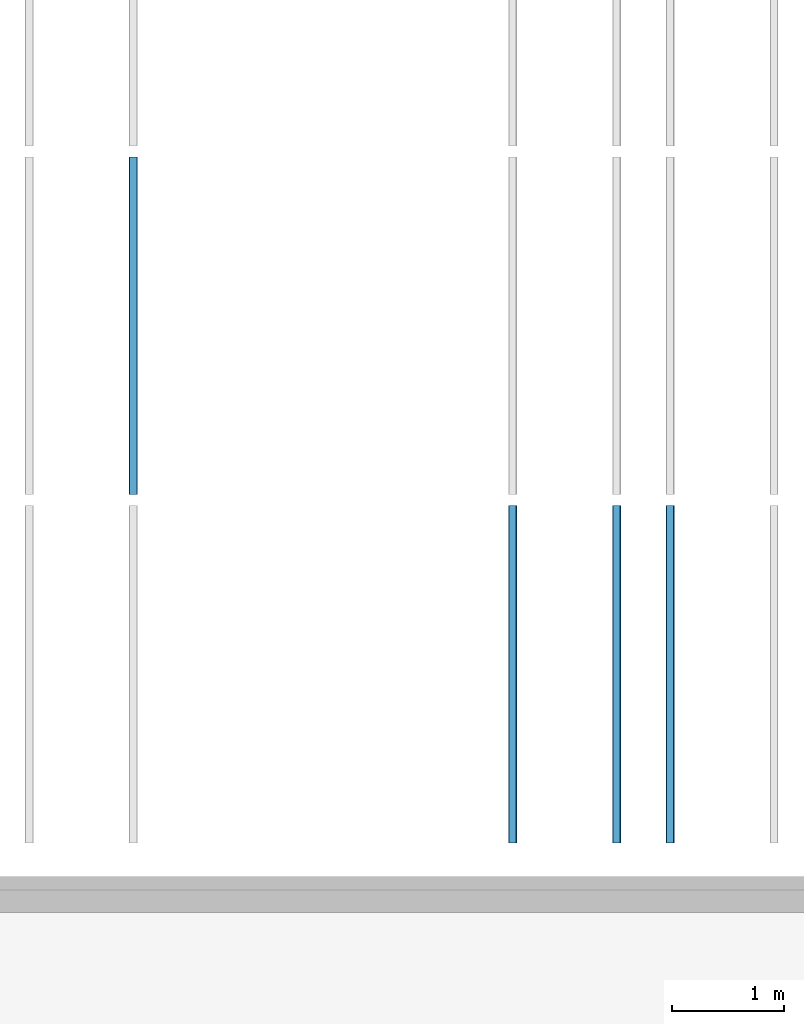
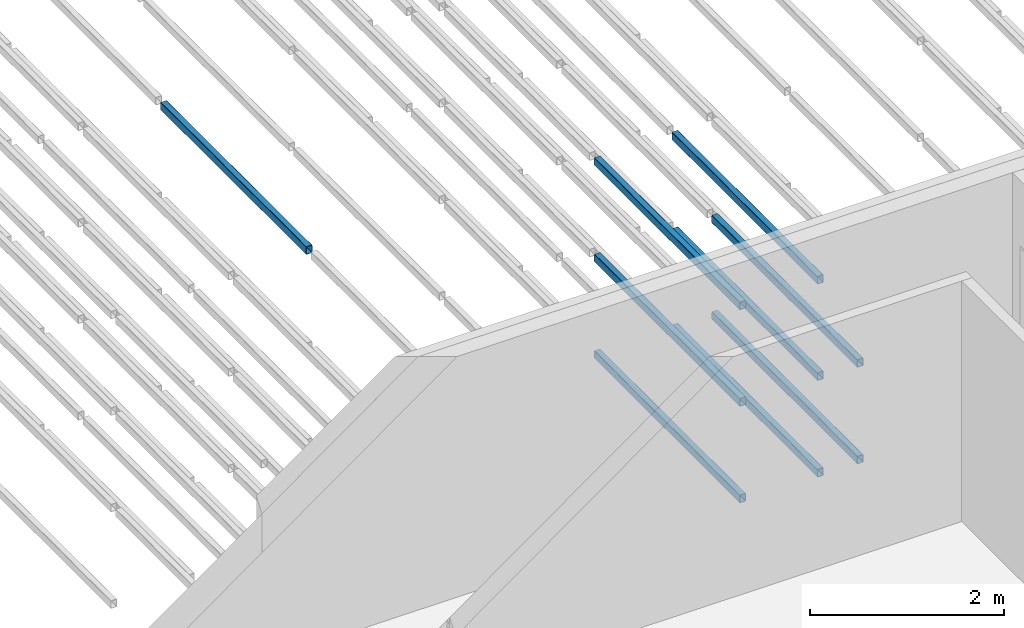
# One storey, part 27 of 290: 9 beams.
"""IFC2X3 building model written with IfcOpenShell, lengths in metres."""

from ifc_helpers import new_model, entity, si_unit, converted_unit, derived_unit, direction, frame, frame_2d, origin, place, context, subcontext, project, spatial, polyline, circle_curve, parameter, trimmed, segment, composite_curve, outline, extrude, material, type_object, element, save


model = new_model("IFC2X3")

# Units and contexts
model_context = context("Model", 3, precision=1e-05, world=origin(), true_north=direction((6.12303176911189e-17, 1.0)))
body_context = subcontext(model_context, "Body", "Model", "MODEL_VIEW")
ifc_project = project(units=[si_unit("LENGTHUNIT", "METRE"), si_unit("AREAUNIT", "SQUARE_METRE"), si_unit("VOLUMEUNIT", "CUBIC_METRE"), converted_unit("PLANEANGLEUNIT", "DEGREE", entity("IfcRatioMeasure", 0.0174532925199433), si_unit("PLANEANGLEUNIT", "RADIAN"), dimensions=[0, 0, 0, 0, 0, 0, 0]), si_unit("MASSUNIT", "GRAM", prefix="KILO"), derived_unit("MASSDENSITYUNIT", [(si_unit("MASSUNIT", "GRAM", prefix="KILO"), 1), (si_unit("LENGTHUNIT", "METRE"), -3)]), derived_unit("MOMENTOFINERTIAUNIT", [(si_unit("LENGTHUNIT", "METRE"), 4)]), si_unit("TIMEUNIT", "SECOND"), si_unit("FREQUENCYUNIT", "HERTZ"), si_unit("THERMODYNAMICTEMPERATUREUNIT", "DEGREE_CELSIUS"), derived_unit("THERMALTRANSMITTANCEUNIT", [(si_unit("MASSUNIT", "GRAM", prefix="KILO"), 1), (si_unit("THERMODYNAMICTEMPERATUREUNIT", "KELVIN"), -1), (si_unit("TIMEUNIT", "SECOND"), -3)]), derived_unit("VOLUMETRICFLOWRATEUNIT", [(si_unit("LENGTHUNIT", "METRE"), 3), (si_unit("TIMEUNIT", "SECOND"), -1)]), si_unit("ELECTRICCURRENTUNIT", "AMPERE"), si_unit("ELECTRICVOLTAGEUNIT", "VOLT"), si_unit("POWERUNIT", "WATT"), si_unit("FORCEUNIT", "NEWTON", prefix="KILO"), si_unit("ILLUMINANCEUNIT", "LUX"), si_unit("LUMINOUSFLUXUNIT", "LUMEN"), si_unit("LUMINOUSINTENSITYUNIT", "CANDELA"), derived_unit("USERDEFINED", [(si_unit("MASSUNIT", "GRAM", prefix="KILO"), -1), (si_unit("LENGTHUNIT", "METRE"), -2), (si_unit("TIMEUNIT", "SECOND"), 3), (si_unit("LUMINOUSFLUXUNIT", "LUMEN"), 1)]), derived_unit("LINEARVELOCITYUNIT", [(si_unit("LENGTHUNIT", "METRE"), 1), (si_unit("TIMEUNIT", "SECOND"), -1)]), si_unit("PRESSUREUNIT", "PASCAL"), derived_unit("USERDEFINED", [(si_unit("LENGTHUNIT", "METRE"), -2), (si_unit("MASSUNIT", "GRAM", prefix="KILO"), 1), (si_unit("TIMEUNIT", "SECOND"), -2)]), derived_unit("LINEARFORCEUNIT", [(si_unit("MASSUNIT", "GRAM", prefix="KILO"), 1), (si_unit("LENGTHUNIT", "METRE"), 1), (si_unit("TIMEUNIT", "SECOND"), -2), (si_unit("LENGTHUNIT", "METRE"), -1)]), derived_unit("PLANARFORCEUNIT", [(si_unit("MASSUNIT", "GRAM", prefix="KILO"), 1), (si_unit("LENGTHUNIT", "METRE"), 1), (si_unit("TIMEUNIT", "SECOND"), -2), (si_unit("LENGTHUNIT", "METRE"), -2)])], contexts=[model_context])

# Site, building, storey
site_placement = place(None, origin())
site = spatial("IfcSite", under=ifc_project, at=site_placement, Name="Default", CompositionType="ELEMENT")
building_placement = place(site_placement, origin())
building = spatial("IfcBuilding", under=site, at=building_placement, CompositionType="ELEMENT")
storey_placement = place(building_placement, frame((0.0, 0.0, 4.0)))
storey = spatial("IfcBuildingStorey", under=building, at=storey_placement, Name="01_OG", CompositionType="ELEMENT", Elevation=4.0)

# Beams
ifc_material = material(Name="Metall - Baustahl S235 blau")
beam_type = type_object("IfcBeamType", Name="RHS Träger (EN 10219-2):RHS 100 x 75 x 5", PredefinedType="NOTDEFINED")
beam_1_placement = place(storey_placement, frame((-185.015111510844, 24.048088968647, 0.0150000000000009), z_axis=(0.0, 0.0, 1.0), x_axis=(0.0, 1.0, 0.0)))
element("IfcBeam", 1, at=beam_1_placement, inside=storey, type_object=beam_type, material=ifc_material, Name="RHS Träger (EN 10219-2):RHS 100 x 75 x 5", ObjectType="RHS Träger (EN 10219-2):RHS 100 x 75 x 5", context=body_context, shape_type="SweptSolid", body=[
    extrude(outline(composite_curve([segment(trimmed(circle_curve(frame_2d((-0.0274999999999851, -0.0400000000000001), x_axis=(1.0, 0.0)), 0.01), [parameter(180.0)], [parameter(270.0)], True, "PARAMETER"), True, "CONTINUOUS"), segment(polyline([(-0.0274999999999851, -0.05), (0.0274999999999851, -0.05)]), True, "CONTINUOUS"), segment(trimmed(circle_curve(frame_2d((0.0274999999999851, -0.0400000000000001), x_axis=(1.0, 0.0)), 0.01), [parameter(270.0)], [parameter(5.08888749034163e-14)], True, "PARAMETER"), True, "CONTINUOUS"), segment(polyline([(0.0375000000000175, -0.0400000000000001), (0.0375000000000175, 0.0400000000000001)]), True, "CONTINUOUS"), segment(trimmed(circle_curve(frame_2d((0.0274999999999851, 0.0400000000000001), x_axis=(1.0, 0.0)), 0.01), [parameter(360.0)], [parameter(89.9999999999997)], True, "PARAMETER"), True, "CONTINUOUS"), segment(polyline([(0.0274999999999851, 0.05), (-0.0274999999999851, 0.05)]), True, "CONTINUOUS"), segment(trimmed(circle_curve(frame_2d((-0.0274999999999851, 0.0400000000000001), x_axis=(1.0, 0.0)), 0.01), [parameter(90.0000000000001)], [parameter(180.0)], True, "PARAMETER"), True, "CONTINUOUS"), segment(polyline([(-0.0374999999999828, 0.0400000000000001), (-0.0374999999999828, -0.0400000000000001)]), True, "CONTINUOUS")], self_intersect=False), holes=[composite_curve([segment(polyline([(0.0274999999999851, -0.0450000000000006), (-0.0274999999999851, -0.0450000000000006)]), True, "CONTINUOUS"), segment(trimmed(circle_curve(frame_2d((-0.0274999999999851, -0.0400000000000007), x_axis=(1.0, 0.0)), 0.005), [parameter(180.0)], [parameter(270.0)], True, "PARAMETER"), False, "CONTINUOUS"), segment(polyline([(-0.0325000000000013, -0.0400000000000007), (-0.0325000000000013, 0.039999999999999)]), True, "CONTINUOUS"), segment(trimmed(circle_curve(frame_2d((-0.0274999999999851, 0.039999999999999), x_axis=(1.0, 0.0)), 0.005), [parameter(90.0000000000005)], [parameter(180.0)], True, "PARAMETER"), False, "CONTINUOUS"), segment(polyline([(-0.0274999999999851, 0.044999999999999), (0.0274999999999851, 0.044999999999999)]), True, "CONTINUOUS"), segment(trimmed(circle_curve(frame_2d((0.0274999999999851, 0.039999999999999), x_axis=(1.0, 0.0)), 0.005), [parameter(0.0)], [parameter(90.0000000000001)], True, "PARAMETER"), False, "CONTINUOUS"), segment(polyline([(0.0325000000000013, 0.039999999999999), (0.0325000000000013, -0.0400000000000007)]), True, "CONTINUOUS"), segment(trimmed(circle_curve(frame_2d((0.0274999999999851, -0.0400000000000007), x_axis=(1.0, 0.0)), 0.005), [parameter(270.0)], [parameter(4.07110999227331e-13)], True, "PARAMETER"), False, "CONTINUOUS")], self_intersect=False)]), frame((0.000100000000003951, 0.0375000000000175, -0.0500000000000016), z_axis=(1.0, 0.0, 0.0), x_axis=(0.0, -1.0, 0.0)), (0.0, 0.0, 1.0), 2.9998),
])
beam_2_placement = place(storey_placement, frame((-185.015111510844, 24.048088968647, 1.23), z_axis=(0.0, 0.0, 1.0), x_axis=(0.0, 1.0, 0.0)))
element("IfcBeam", 2, at=beam_2_placement, inside=storey, type_object=beam_type, material=ifc_material, Name="RHS Träger (EN 10219-2):RHS 100 x 75 x 5", ObjectType="RHS Träger (EN 10219-2):RHS 100 x 75 x 5", context=body_context, shape_type="SweptSolid", body=[
    extrude(outline(composite_curve([segment(trimmed(circle_curve(frame_2d((-0.0274999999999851, -0.0399999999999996), x_axis=(1.0, 0.0)), 0.01), [parameter(180.0)], [parameter(270.0)], True, "PARAMETER"), True, "CONTINUOUS"), segment(polyline([(-0.0274999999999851, -0.0499999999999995), (0.0274999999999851, -0.0499999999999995)]), True, "CONTINUOUS"), segment(trimmed(circle_curve(frame_2d((0.0274999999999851, -0.0399999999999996), x_axis=(1.0, 0.0)), 0.01), [parameter(270.0)], [parameter(5.08888749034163e-14)], True, "PARAMETER"), True, "CONTINUOUS"), segment(polyline([(0.0375000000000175, -0.0399999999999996), (0.0375000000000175, 0.0399999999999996)]), True, "CONTINUOUS"), segment(trimmed(circle_curve(frame_2d((0.0274999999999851, 0.0399999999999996), x_axis=(1.0, 0.0)), 0.01), [parameter(360.0)], [parameter(89.9999999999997)], True, "PARAMETER"), True, "CONTINUOUS"), segment(polyline([(0.0274999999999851, 0.0500000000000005), (-0.0274999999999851, 0.0500000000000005)]), True, "CONTINUOUS"), segment(trimmed(circle_curve(frame_2d((-0.0274999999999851, 0.0399999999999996), x_axis=(1.0, 0.0)), 0.01), [parameter(90.0000000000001)], [parameter(180.0)], True, "PARAMETER"), True, "CONTINUOUS"), segment(polyline([(-0.0374999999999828, 0.0399999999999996), (-0.0374999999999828, -0.0399999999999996)]), True, "CONTINUOUS")], self_intersect=False), holes=[composite_curve([segment(polyline([(0.0274999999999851, -0.0450000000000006), (-0.0274999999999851, -0.0450000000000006)]), True, "CONTINUOUS"), segment(trimmed(circle_curve(frame_2d((-0.0274999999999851, -0.0400000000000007), x_axis=(1.0, 0.0)), 0.005), [parameter(180.0)], [parameter(270.0)], True, "PARAMETER"), False, "CONTINUOUS"), segment(polyline([(-0.0325000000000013, -0.0400000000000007), (-0.0325000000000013, 0.0399999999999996)]), True, "CONTINUOUS"), segment(trimmed(circle_curve(frame_2d((-0.0274999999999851, 0.0399999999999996), x_axis=(1.0, 0.0)), 0.005), [parameter(90.0000000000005)], [parameter(180.0)], True, "PARAMETER"), False, "CONTINUOUS"), segment(polyline([(-0.0274999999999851, 0.0449999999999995), (0.0274999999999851, 0.0449999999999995)]), True, "CONTINUOUS"), segment(trimmed(circle_curve(frame_2d((0.0274999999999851, 0.0399999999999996), x_axis=(1.0, 0.0)), 0.005), [parameter(0.0)], [parameter(90.0000000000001)], True, "PARAMETER"), False, "CONTINUOUS"), segment(polyline([(0.0325000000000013, 0.0399999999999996), (0.0325000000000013, -0.0400000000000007)]), True, "CONTINUOUS"), segment(trimmed(circle_curve(frame_2d((0.0274999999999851, -0.0400000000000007), x_axis=(1.0, 0.0)), 0.005), [parameter(270.0)], [parameter(4.07110999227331e-13)], True, "PARAMETER"), False, "CONTINUOUS")], self_intersect=False)]), frame((0.000100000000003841, 0.0375000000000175, -0.0500000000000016), z_axis=(1.0, 0.0, 0.0), x_axis=(0.0, -1.0, 0.0)), (0.0, 0.0, 1.0), 2.9998),
])
beam_3_placement = place(storey_placement, frame((-185.015111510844, 24.048088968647, 2.445), z_axis=(0.0, 0.0, 1.0), x_axis=(0.0, 1.0, 0.0)))
element("IfcBeam", 3, at=beam_3_placement, inside=storey, type_object=beam_type, material=ifc_material, Name="RHS Träger (EN 10219-2):RHS 100 x 75 x 5", ObjectType="RHS Träger (EN 10219-2):RHS 100 x 75 x 5", context=body_context, shape_type="SweptSolid", body=[
    extrude(outline(composite_curve([segment(trimmed(circle_curve(frame_2d((-0.0274999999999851, -0.0399999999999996), x_axis=(1.0, 0.0)), 0.01), [parameter(180.0)], [parameter(270.0)], True, "PARAMETER"), True, "CONTINUOUS"), segment(polyline([(-0.0274999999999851, -0.0499999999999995), (0.0274999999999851, -0.0499999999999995)]), True, "CONTINUOUS"), segment(trimmed(circle_curve(frame_2d((0.0274999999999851, -0.0399999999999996), x_axis=(1.0, 0.0)), 0.01), [parameter(270.0)], [parameter(5.08888749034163e-14)], True, "PARAMETER"), True, "CONTINUOUS"), segment(polyline([(0.0375000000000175, -0.0399999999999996), (0.0375000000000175, 0.0399999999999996)]), True, "CONTINUOUS"), segment(trimmed(circle_curve(frame_2d((0.0274999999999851, 0.0399999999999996), x_axis=(1.0, 0.0)), 0.01), [parameter(360.0)], [parameter(89.9999999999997)], True, "PARAMETER"), True, "CONTINUOUS"), segment(polyline([(0.0274999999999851, 0.0500000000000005), (-0.0274999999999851, 0.0500000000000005)]), True, "CONTINUOUS"), segment(trimmed(circle_curve(frame_2d((-0.0274999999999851, 0.0399999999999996), x_axis=(1.0, 0.0)), 0.01), [parameter(90.0000000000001)], [parameter(180.0)], True, "PARAMETER"), True, "CONTINUOUS"), segment(polyline([(-0.0374999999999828, 0.0399999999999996), (-0.0374999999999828, -0.0399999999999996)]), True, "CONTINUOUS")], self_intersect=False), holes=[composite_curve([segment(polyline([(0.0274999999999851, -0.0450000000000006), (-0.0274999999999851, -0.0450000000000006)]), True, "CONTINUOUS"), segment(trimmed(circle_curve(frame_2d((-0.0274999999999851, -0.0400000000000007), x_axis=(1.0, 0.0)), 0.005), [parameter(180.0)], [parameter(270.0)], True, "PARAMETER"), False, "CONTINUOUS"), segment(polyline([(-0.0325000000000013, -0.0400000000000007), (-0.0325000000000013, 0.0399999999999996)]), True, "CONTINUOUS"), segment(trimmed(circle_curve(frame_2d((-0.0274999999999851, 0.0399999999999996), x_axis=(1.0, 0.0)), 0.005), [parameter(90.0000000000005)], [parameter(180.0)], True, "PARAMETER"), False, "CONTINUOUS"), segment(polyline([(-0.0274999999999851, 0.0449999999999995), (0.0274999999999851, 0.0449999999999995)]), True, "CONTINUOUS"), segment(trimmed(circle_curve(frame_2d((0.0274999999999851, 0.0399999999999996), x_axis=(1.0, 0.0)), 0.005), [parameter(0.0)], [parameter(90.0000000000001)], True, "PARAMETER"), False, "CONTINUOUS"), segment(polyline([(0.0325000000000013, 0.0399999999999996), (0.0325000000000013, -0.0400000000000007)]), True, "CONTINUOUS"), segment(trimmed(circle_curve(frame_2d((0.0274999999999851, -0.0400000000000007), x_axis=(1.0, 0.0)), 0.005), [parameter(270.0)], [parameter(4.07110999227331e-13)], True, "PARAMETER"), False, "CONTINUOUS")], self_intersect=False)]), frame((0.000100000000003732, 0.0375000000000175, -0.0500000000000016), z_axis=(1.0, 0.0, 0.0), x_axis=(0.0, -1.0, 0.0)), (0.0, 0.0, 1.0), 2.9998),
])
beam_4_placement = place(storey_placement, frame((-184.165111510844, 24.048088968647, 0.0150000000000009), z_axis=(0.0, 0.0, 1.0), x_axis=(0.0, 1.0, 0.0)))
element("IfcBeam", 4, at=beam_4_placement, inside=storey, type_object=beam_type, material=ifc_material, Name="RHS Träger (EN 10219-2):RHS 100 x 75 x 5", ObjectType="RHS Träger (EN 10219-2):RHS 100 x 75 x 5", context=body_context, shape_type="SweptSolid", body=[
    extrude(outline(composite_curve([segment(polyline([(-0.0400000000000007, -0.0374999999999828), (0.0399999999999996, -0.0374999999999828)]), True, "CONTINUOUS"), segment(trimmed(circle_curve(frame_2d((0.0399999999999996, -0.0274999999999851), x_axis=(0.0, 1.0)), 0.01), [parameter(180.0)], [parameter(270.0)], True, "PARAMETER"), True, "CONTINUOUS"), segment(polyline([(0.0499999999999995, -0.0274999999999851), (0.0499999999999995, 0.0274999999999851)]), True, "CONTINUOUS"), segment(trimmed(circle_curve(frame_2d((0.0399999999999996, 0.0274999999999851), x_axis=(0.0, 1.0)), 0.01), [parameter(270.0)], [parameter(4.07110999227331e-13)], True, "PARAMETER"), True, "CONTINUOUS"), segment(polyline([(0.0399999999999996, 0.0375000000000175), (-0.0400000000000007, 0.0375000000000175)]), True, "CONTINUOUS"), segment(trimmed(circle_curve(frame_2d((-0.0400000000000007, 0.0274999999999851), x_axis=(0.0, 1.0)), 0.01), [parameter(360.0)], [parameter(90.0000000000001)], True, "PARAMETER"), True, "CONTINUOUS"), segment(polyline([(-0.0500000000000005, 0.0274999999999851), (-0.0500000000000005, -0.0274999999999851)]), True, "CONTINUOUS"), segment(trimmed(circle_curve(frame_2d((-0.0400000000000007, -0.0274999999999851), x_axis=(0.0, 1.0)), 0.01), [parameter(90.0000000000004)], [parameter(180.0)], True, "PARAMETER"), True, "CONTINUOUS")], self_intersect=False), holes=[composite_curve([segment(trimmed(circle_curve(frame_2d((-0.0400000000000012, 0.0274999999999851), x_axis=(0.0, 1.0)), 0.005), [parameter(360.0)], [parameter(89.9999999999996)], True, "PARAMETER"), False, "CONTINUOUS"), segment(polyline([(-0.0400000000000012, 0.0325000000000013), (0.0399999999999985, 0.0325000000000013)]), True, "CONTINUOUS"), segment(trimmed(circle_curve(frame_2d((0.0399999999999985, 0.0274999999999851), x_axis=(0.0, 1.0)), 0.005), [parameter(270.0)], [parameter(0.0)], True, "PARAMETER"), False, "CONTINUOUS"), segment(polyline([(0.0449999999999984, 0.0274999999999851), (0.0449999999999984, -0.0274999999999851)]), True, "CONTINUOUS"), segment(trimmed(circle_curve(frame_2d((0.0399999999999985, -0.0274999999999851), x_axis=(0.0, 1.0)), 0.005), [parameter(180.0)], [parameter(269.999999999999)], True, "PARAMETER"), False, "CONTINUOUS"), segment(polyline([(0.0399999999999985, -0.0325000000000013), (-0.0400000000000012, -0.0325000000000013)]), True, "CONTINUOUS"), segment(trimmed(circle_curve(frame_2d((-0.0400000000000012, -0.0274999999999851), x_axis=(0.0, 1.0)), 0.005), [parameter(90.0000000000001)], [parameter(180.0)], True, "PARAMETER"), False, "CONTINUOUS"), segment(polyline([(-0.0450000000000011, -0.0274999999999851), (-0.0450000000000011, 0.0274999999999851)]), True, "CONTINUOUS")], self_intersect=False)]), frame((0.000100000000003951, -0.0375000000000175, -0.0500000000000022), z_axis=(1.0, 0.0, 0.0), x_axis=(0.0, 0.0, -1.0)), (0.0, 0.0, 1.0), 2.9998),
])
beam_5_placement = place(storey_placement, frame((-184.165111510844, 24.048088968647, 1.23), z_axis=(0.0, 0.0, 1.0), x_axis=(0.0, 1.0, 0.0)))
element("IfcBeam", 5, at=beam_5_placement, inside=storey, type_object=beam_type, material=ifc_material, Name="RHS Träger (EN 10219-2):RHS 100 x 75 x 5", ObjectType="RHS Träger (EN 10219-2):RHS 100 x 75 x 5", context=body_context, shape_type="SweptSolid", body=[
    extrude(outline(composite_curve([segment(polyline([(-0.0399999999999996, -0.0374999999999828), (0.0399999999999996, -0.0374999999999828)]), True, "CONTINUOUS"), segment(trimmed(circle_curve(frame_2d((0.0399999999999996, -0.0274999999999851), x_axis=(0.0, 1.0)), 0.01), [parameter(180.0)], [parameter(270.0)], True, "PARAMETER"), True, "CONTINUOUS"), segment(polyline([(0.0500000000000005, -0.0274999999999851), (0.0500000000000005, 0.0274999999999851)]), True, "CONTINUOUS"), segment(trimmed(circle_curve(frame_2d((0.0399999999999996, 0.0274999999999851), x_axis=(0.0, 1.0)), 0.01), [parameter(270.0)], [parameter(4.07110999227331e-13)], True, "PARAMETER"), True, "CONTINUOUS"), segment(polyline([(0.0399999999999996, 0.0375000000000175), (-0.0399999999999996, 0.0375000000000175)]), True, "CONTINUOUS"), segment(trimmed(circle_curve(frame_2d((-0.0399999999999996, 0.0274999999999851), x_axis=(0.0, 1.0)), 0.01), [parameter(360.0)], [parameter(90.0000000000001)], True, "PARAMETER"), True, "CONTINUOUS"), segment(polyline([(-0.0499999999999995, 0.0274999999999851), (-0.0499999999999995, -0.0274999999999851)]), True, "CONTINUOUS"), segment(trimmed(circle_curve(frame_2d((-0.0399999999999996, -0.0274999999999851), x_axis=(0.0, 1.0)), 0.01), [parameter(90.0000000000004)], [parameter(180.0)], True, "PARAMETER"), True, "CONTINUOUS")], self_intersect=False), holes=[composite_curve([segment(trimmed(circle_curve(frame_2d((-0.0400000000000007, 0.0274999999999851), x_axis=(0.0, 1.0)), 0.005), [parameter(360.0)], [parameter(89.9999999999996)], True, "PARAMETER"), False, "CONTINUOUS"), segment(polyline([(-0.0400000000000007, 0.0325000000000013), (0.0399999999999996, 0.0325000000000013)]), True, "CONTINUOUS"), segment(trimmed(circle_curve(frame_2d((0.0399999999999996, 0.0274999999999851), x_axis=(0.0, 1.0)), 0.005), [parameter(270.0)], [parameter(0.0)], True, "PARAMETER"), False, "CONTINUOUS"), segment(polyline([(0.0449999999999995, 0.0274999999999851), (0.0449999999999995, -0.0274999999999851)]), True, "CONTINUOUS"), segment(trimmed(circle_curve(frame_2d((0.0399999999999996, -0.0274999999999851), x_axis=(0.0, 1.0)), 0.005), [parameter(180.0)], [parameter(269.999999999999)], True, "PARAMETER"), False, "CONTINUOUS"), segment(polyline([(0.0399999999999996, -0.0325000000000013), (-0.0400000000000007, -0.0325000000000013)]), True, "CONTINUOUS"), segment(trimmed(circle_curve(frame_2d((-0.0400000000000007, -0.0274999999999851), x_axis=(0.0, 1.0)), 0.005), [parameter(90.0000000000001)], [parameter(180.0)], True, "PARAMETER"), False, "CONTINUOUS"), segment(polyline([(-0.0450000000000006, -0.0274999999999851), (-0.0450000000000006, 0.0274999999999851)]), True, "CONTINUOUS")], self_intersect=False)]), frame((0.000100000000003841, -0.0375000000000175, -0.0500000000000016), z_axis=(1.0, 0.0, 0.0), x_axis=(0.0, 0.0, -1.0)), (0.0, 0.0, 1.0), 2.9998),
])
beam_6_placement = place(storey_placement, frame((-184.165111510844, 24.048088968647, 2.445), z_axis=(0.0, 0.0, 1.0), x_axis=(0.0, 1.0, 0.0)))
element("IfcBeam", 6, at=beam_6_placement, inside=storey, type_object=beam_type, material=ifc_material, Name="RHS Träger (EN 10219-2):RHS 100 x 75 x 5", ObjectType="RHS Träger (EN 10219-2):RHS 100 x 75 x 5", context=body_context, shape_type="SweptSolid", body=[
    extrude(outline(composite_curve([segment(polyline([(-0.0399999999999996, -0.0374999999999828), (0.0399999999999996, -0.0374999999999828)]), True, "CONTINUOUS"), segment(trimmed(circle_curve(frame_2d((0.0399999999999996, -0.0274999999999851), x_axis=(0.0, 1.0)), 0.01), [parameter(180.0)], [parameter(270.0)], True, "PARAMETER"), True, "CONTINUOUS"), segment(polyline([(0.0500000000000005, -0.0274999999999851), (0.0500000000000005, 0.0274999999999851)]), True, "CONTINUOUS"), segment(trimmed(circle_curve(frame_2d((0.0399999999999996, 0.0274999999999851), x_axis=(0.0, 1.0)), 0.01), [parameter(270.0)], [parameter(4.07110999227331e-13)], True, "PARAMETER"), True, "CONTINUOUS"), segment(polyline([(0.0399999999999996, 0.0375000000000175), (-0.0399999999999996, 0.0375000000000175)]), True, "CONTINUOUS"), segment(trimmed(circle_curve(frame_2d((-0.0399999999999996, 0.0274999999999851), x_axis=(0.0, 1.0)), 0.01), [parameter(360.0)], [parameter(90.0000000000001)], True, "PARAMETER"), True, "CONTINUOUS"), segment(polyline([(-0.0499999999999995, 0.0274999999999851), (-0.0499999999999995, -0.0274999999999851)]), True, "CONTINUOUS"), segment(trimmed(circle_curve(frame_2d((-0.0399999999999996, -0.0274999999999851), x_axis=(0.0, 1.0)), 0.01), [parameter(90.0000000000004)], [parameter(180.0)], True, "PARAMETER"), True, "CONTINUOUS")], self_intersect=False), holes=[composite_curve([segment(trimmed(circle_curve(frame_2d((-0.0400000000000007, 0.0274999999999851), x_axis=(0.0, 1.0)), 0.005), [parameter(360.0)], [parameter(89.9999999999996)], True, "PARAMETER"), False, "CONTINUOUS"), segment(polyline([(-0.0400000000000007, 0.0325000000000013), (0.0399999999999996, 0.0325000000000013)]), True, "CONTINUOUS"), segment(trimmed(circle_curve(frame_2d((0.0399999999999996, 0.0274999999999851), x_axis=(0.0, 1.0)), 0.005), [parameter(270.0)], [parameter(0.0)], True, "PARAMETER"), False, "CONTINUOUS"), segment(polyline([(0.0449999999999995, 0.0274999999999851), (0.0449999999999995, -0.0274999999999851)]), True, "CONTINUOUS"), segment(trimmed(circle_curve(frame_2d((0.0399999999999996, -0.0274999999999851), x_axis=(0.0, 1.0)), 0.005), [parameter(180.0)], [parameter(269.999999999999)], True, "PARAMETER"), False, "CONTINUOUS"), segment(polyline([(0.0399999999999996, -0.0325000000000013), (-0.0400000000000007, -0.0325000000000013)]), True, "CONTINUOUS"), segment(trimmed(circle_curve(frame_2d((-0.0400000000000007, -0.0274999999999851), x_axis=(0.0, 1.0)), 0.005), [parameter(90.0000000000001)], [parameter(180.0)], True, "PARAMETER"), False, "CONTINUOUS"), segment(polyline([(-0.0450000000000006, -0.0274999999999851), (-0.0450000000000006, 0.0274999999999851)]), True, "CONTINUOUS")], self_intersect=False)]), frame((0.000100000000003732, -0.0375000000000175, -0.0500000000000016), z_axis=(1.0, 0.0, 0.0), x_axis=(0.0, 0.0, -1.0)), (0.0, 0.0, 1.0), 2.9998),
])
beam_7_placement = place(storey_placement, frame((-183.615111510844, 24.048088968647, 0.0150000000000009), z_axis=(0.0, 0.0, 1.0), x_axis=(0.0, 1.0, 0.0)))
element("IfcBeam", 7, at=beam_7_placement, inside=storey, type_object=beam_type, material=ifc_material, Name="RHS Träger (EN 10219-2):RHS 100 x 75 x 5", ObjectType="RHS Träger (EN 10219-2):RHS 100 x 75 x 5", context=body_context, shape_type="SweptSolid", body=[
    extrude(outline(composite_curve([segment(trimmed(circle_curve(frame_2d((-0.0274999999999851, -0.0400000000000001), x_axis=(1.0, 0.0)), 0.01), [parameter(180.0)], [parameter(270.0)], True, "PARAMETER"), True, "CONTINUOUS"), segment(polyline([(-0.0274999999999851, -0.05), (0.0274999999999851, -0.05)]), True, "CONTINUOUS"), segment(trimmed(circle_curve(frame_2d((0.0274999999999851, -0.0400000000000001), x_axis=(1.0, 0.0)), 0.01), [parameter(270.0)], [parameter(5.08888749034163e-14)], True, "PARAMETER"), True, "CONTINUOUS"), segment(polyline([(0.0375000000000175, -0.0400000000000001), (0.0375000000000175, 0.0400000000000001)]), True, "CONTINUOUS"), segment(trimmed(circle_curve(frame_2d((0.0274999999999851, 0.0400000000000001), x_axis=(1.0, 0.0)), 0.01), [parameter(360.0)], [parameter(89.9999999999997)], True, "PARAMETER"), True, "CONTINUOUS"), segment(polyline([(0.0274999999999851, 0.05), (-0.0274999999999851, 0.05)]), True, "CONTINUOUS"), segment(trimmed(circle_curve(frame_2d((-0.0274999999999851, 0.0400000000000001), x_axis=(1.0, 0.0)), 0.01), [parameter(90.0000000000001)], [parameter(180.0)], True, "PARAMETER"), True, "CONTINUOUS"), segment(polyline([(-0.0374999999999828, 0.0400000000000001), (-0.0374999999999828, -0.0400000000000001)]), True, "CONTINUOUS")], self_intersect=False), holes=[composite_curve([segment(polyline([(0.0274999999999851, -0.0450000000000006), (-0.0274999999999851, -0.0450000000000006)]), True, "CONTINUOUS"), segment(trimmed(circle_curve(frame_2d((-0.0274999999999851, -0.0400000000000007), x_axis=(1.0, 0.0)), 0.005), [parameter(180.0)], [parameter(270.0)], True, "PARAMETER"), False, "CONTINUOUS"), segment(polyline([(-0.0325000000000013, -0.0400000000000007), (-0.0325000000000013, 0.039999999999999)]), True, "CONTINUOUS"), segment(trimmed(circle_curve(frame_2d((-0.0274999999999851, 0.039999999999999), x_axis=(1.0, 0.0)), 0.005), [parameter(90.0000000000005)], [parameter(180.0)], True, "PARAMETER"), False, "CONTINUOUS"), segment(polyline([(-0.0274999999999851, 0.044999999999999), (0.0274999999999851, 0.044999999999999)]), True, "CONTINUOUS"), segment(trimmed(circle_curve(frame_2d((0.0274999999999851, 0.039999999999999), x_axis=(1.0, 0.0)), 0.005), [parameter(0.0)], [parameter(90.0000000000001)], True, "PARAMETER"), False, "CONTINUOUS"), segment(polyline([(0.0325000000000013, 0.039999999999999), (0.0325000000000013, -0.0400000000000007)]), True, "CONTINUOUS"), segment(trimmed(circle_curve(frame_2d((0.0274999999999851, -0.0400000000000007), x_axis=(1.0, 0.0)), 0.005), [parameter(270.0)], [parameter(4.07110999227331e-13)], True, "PARAMETER"), False, "CONTINUOUS")], self_intersect=False)]), frame((9.99999999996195e-05, 0.0375000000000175, -0.0500000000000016), z_axis=(1.0, 0.0, 0.0), x_axis=(0.0, -1.0, 0.0)), (0.0, 0.0, 1.0), 2.9998),
])
beam_8_placement = place(storey_placement, frame((-183.615111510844, 24.048088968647, 1.23), z_axis=(0.0, 0.0, 1.0), x_axis=(0.0, 1.0, 0.0)))
element("IfcBeam", 8, at=beam_8_placement, inside=storey, type_object=beam_type, material=ifc_material, Name="RHS Träger (EN 10219-2):RHS 100 x 75 x 5", ObjectType="RHS Träger (EN 10219-2):RHS 100 x 75 x 5", context=body_context, shape_type="SweptSolid", body=[
    extrude(outline(composite_curve([segment(trimmed(circle_curve(frame_2d((-0.0274999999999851, -0.0399999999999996), x_axis=(1.0, 0.0)), 0.01), [parameter(180.0)], [parameter(270.0)], True, "PARAMETER"), True, "CONTINUOUS"), segment(polyline([(-0.0274999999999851, -0.0499999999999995), (0.0274999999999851, -0.0499999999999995)]), True, "CONTINUOUS"), segment(trimmed(circle_curve(frame_2d((0.0274999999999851, -0.0399999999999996), x_axis=(1.0, 0.0)), 0.01), [parameter(270.0)], [parameter(5.08888749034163e-14)], True, "PARAMETER"), True, "CONTINUOUS"), segment(polyline([(0.0375000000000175, -0.0399999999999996), (0.0375000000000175, 0.0399999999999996)]), True, "CONTINUOUS"), segment(trimmed(circle_curve(frame_2d((0.0274999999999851, 0.0399999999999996), x_axis=(1.0, 0.0)), 0.01), [parameter(360.0)], [parameter(89.9999999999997)], True, "PARAMETER"), True, "CONTINUOUS"), segment(polyline([(0.0274999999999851, 0.0500000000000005), (-0.0274999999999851, 0.0500000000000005)]), True, "CONTINUOUS"), segment(trimmed(circle_curve(frame_2d((-0.0274999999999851, 0.0399999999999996), x_axis=(1.0, 0.0)), 0.01), [parameter(90.0000000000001)], [parameter(180.0)], True, "PARAMETER"), True, "CONTINUOUS"), segment(polyline([(-0.0374999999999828, 0.0399999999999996), (-0.0374999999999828, -0.0399999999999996)]), True, "CONTINUOUS")], self_intersect=False), holes=[composite_curve([segment(polyline([(0.0274999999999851, -0.0450000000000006), (-0.0274999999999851, -0.0450000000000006)]), True, "CONTINUOUS"), segment(trimmed(circle_curve(frame_2d((-0.0274999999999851, -0.0400000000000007), x_axis=(1.0, 0.0)), 0.005), [parameter(180.0)], [parameter(270.0)], True, "PARAMETER"), False, "CONTINUOUS"), segment(polyline([(-0.0325000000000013, -0.0400000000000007), (-0.0325000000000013, 0.0399999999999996)]), True, "CONTINUOUS"), segment(trimmed(circle_curve(frame_2d((-0.0274999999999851, 0.0399999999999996), x_axis=(1.0, 0.0)), 0.005), [parameter(90.0000000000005)], [parameter(180.0)], True, "PARAMETER"), False, "CONTINUOUS"), segment(polyline([(-0.0274999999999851, 0.0449999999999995), (0.0274999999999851, 0.0449999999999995)]), True, "CONTINUOUS"), segment(trimmed(circle_curve(frame_2d((0.0274999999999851, 0.0399999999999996), x_axis=(1.0, 0.0)), 0.005), [parameter(0.0)], [parameter(90.0000000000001)], True, "PARAMETER"), False, "CONTINUOUS"), segment(polyline([(0.0325000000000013, 0.0399999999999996), (0.0325000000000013, -0.0400000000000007)]), True, "CONTINUOUS"), segment(trimmed(circle_curve(frame_2d((0.0274999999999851, -0.0400000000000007), x_axis=(1.0, 0.0)), 0.005), [parameter(270.0)], [parameter(4.07110999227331e-13)], True, "PARAMETER"), False, "CONTINUOUS")], self_intersect=False)]), frame((9.99999999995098e-05, 0.0375000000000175, -0.0500000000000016), z_axis=(1.0, 0.0, 0.0), x_axis=(0.0, -1.0, 0.0)), (0.0, 0.0, 1.0), 2.9998),
])
beam_9_placement = place(storey_placement, frame((-188.465111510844, 27.148088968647, 2.445), z_axis=(0.0, 0.0, 1.0), x_axis=(0.0, 1.0, 0.0)))
element("IfcBeam", 9, at=beam_9_placement, inside=storey, type_object=beam_type, material=ifc_material, Name="RHS Träger (EN 10219-2):RHS 100 x 75 x 5", ObjectType="RHS Träger (EN 10219-2):RHS 100 x 75 x 5", context=body_context, shape_type="SweptSolid", body=[
    extrude(outline(composite_curve([segment(polyline([(-0.0399999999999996, -0.0374999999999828), (0.0399999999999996, -0.0374999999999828)]), True, "CONTINUOUS"), segment(trimmed(circle_curve(frame_2d((0.0399999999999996, -0.0274999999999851), x_axis=(0.0, 1.0)), 0.01), [parameter(180.0)], [parameter(270.0)], True, "PARAMETER"), True, "CONTINUOUS"), segment(polyline([(0.0500000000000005, -0.0274999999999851), (0.0500000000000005, 0.0274999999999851)]), True, "CONTINUOUS"), segment(trimmed(circle_curve(frame_2d((0.0399999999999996, 0.0274999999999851), x_axis=(0.0, 1.0)), 0.01), [parameter(270.0)], [parameter(4.07110999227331e-13)], True, "PARAMETER"), True, "CONTINUOUS"), segment(polyline([(0.0399999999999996, 0.0375000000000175), (-0.0399999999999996, 0.0375000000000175)]), True, "CONTINUOUS"), segment(trimmed(circle_curve(frame_2d((-0.0399999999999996, 0.0274999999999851), x_axis=(0.0, 1.0)), 0.01), [parameter(360.0)], [parameter(90.0000000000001)], True, "PARAMETER"), True, "CONTINUOUS"), segment(polyline([(-0.0499999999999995, 0.0274999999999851), (-0.0499999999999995, -0.0274999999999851)]), True, "CONTINUOUS"), segment(trimmed(circle_curve(frame_2d((-0.0399999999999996, -0.0274999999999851), x_axis=(0.0, 1.0)), 0.01), [parameter(90.0000000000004)], [parameter(180.0)], True, "PARAMETER"), True, "CONTINUOUS")], self_intersect=False), holes=[composite_curve([segment(trimmed(circle_curve(frame_2d((-0.0400000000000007, 0.0274999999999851), x_axis=(0.0, 1.0)), 0.005), [parameter(360.0)], [parameter(89.9999999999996)], True, "PARAMETER"), False, "CONTINUOUS"), segment(polyline([(-0.0400000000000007, 0.0325000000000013), (0.0399999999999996, 0.0325000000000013)]), True, "CONTINUOUS"), segment(trimmed(circle_curve(frame_2d((0.0399999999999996, 0.0274999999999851), x_axis=(0.0, 1.0)), 0.005), [parameter(270.0)], [parameter(0.0)], True, "PARAMETER"), False, "CONTINUOUS"), segment(polyline([(0.0449999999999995, 0.0274999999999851), (0.0449999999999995, -0.0274999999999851)]), True, "CONTINUOUS"), segment(trimmed(circle_curve(frame_2d((0.0399999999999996, -0.0274999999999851), x_axis=(0.0, 1.0)), 0.005), [parameter(180.0)], [parameter(269.999999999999)], True, "PARAMETER"), False, "CONTINUOUS"), segment(polyline([(0.0399999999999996, -0.0325000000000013), (-0.0400000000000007, -0.0325000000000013)]), True, "CONTINUOUS"), segment(trimmed(circle_curve(frame_2d((-0.0400000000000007, -0.0274999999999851), x_axis=(0.0, 1.0)), 0.005), [parameter(90.0000000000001)], [parameter(180.0)], True, "PARAMETER"), False, "CONTINUOUS"), segment(polyline([(-0.0450000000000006, -0.0274999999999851), (-0.0450000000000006, 0.0274999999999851)]), True, "CONTINUOUS")], self_intersect=False)]), frame((0.000100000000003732, -0.0375000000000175, -0.0500000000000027), z_axis=(1.0, 0.0, 0.0), x_axis=(0.0, 0.0, -1.0)), (0.0, 0.0, 1.0), 2.9998),
])

save(model, "model.ifc")
